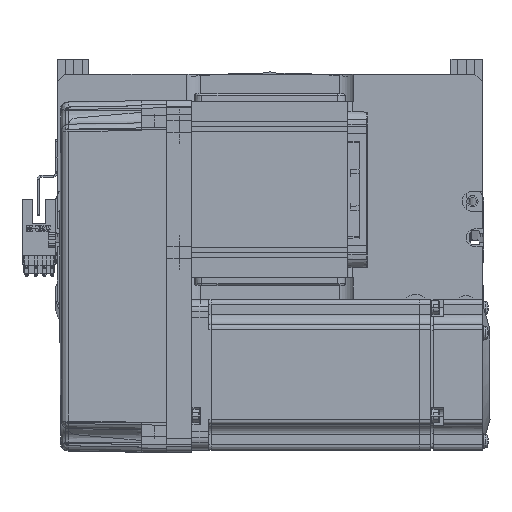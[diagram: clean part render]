
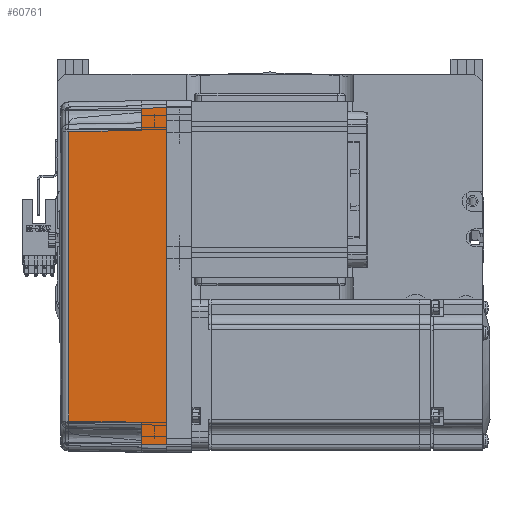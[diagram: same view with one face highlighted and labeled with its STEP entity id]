
A CAD part, top view. The second image highlights one B-rep face of the part: STEP entity #60761.
In plain terms, the highlighted planar face has unit normal (-0.018, 0, 1) as drawn and (0, -1, 0.017) by its records, which use the part's own axes.
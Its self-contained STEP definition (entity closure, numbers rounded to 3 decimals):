
#457 = CARTESIAN_POINT ( 'NONE',  ( 70., -35.825, 10. ) ) ;
#1081 = EDGE_CURVE ( 'NONE', #11502, #51731, #46467, .T. ) ;
#3785 = VECTOR ( 'NONE', #60072, 1000. ) ;
#4316 = DIRECTION ( 'NONE',  ( -0.017, 0.017, 1. ) ) ;
#4744 = DIRECTION ( 'NONE',  ( 0., -1., 0.017 ) ) ;
#5974 = VECTOR ( 'NONE', #30192, 1000. ) ;
#6986 = LINE ( 'NONE', #18964, #3785 ) ;
#7175 = VERTEX_POINT ( 'NONE', #53235 ) ;
#7871 = ORIENTED_EDGE ( 'NONE', *, *, #24442, .T. ) ;
#8962 = VERTEX_POINT ( 'NONE', #38263 ) ;
#9987 = PLANE ( 'NONE',  #53218 ) ;
#10396 = ORIENTED_EDGE ( 'NONE', *, *, #52747, .F. ) ;
#10640 = CARTESIAN_POINT ( 'NONE',  ( 57.495, -35.32, 38.985 ) ) ;
#11502 = VERTEX_POINT ( 'NONE', #57756 ) ;
#12160 = ORIENTED_EDGE ( 'NONE', *, *, #31608, .T. ) ;
#13069 = CARTESIAN_POINT ( 'NONE',  ( -67., -36., 0. ) ) ;
#14869 = CARTESIAN_POINT ( 'NONE',  ( -66.959, -35.958, 2.39 ) ) ;
#15133 = LINE ( 'NONE', #19412, #61682 ) ;
#16195 = VECTOR ( 'NONE', #41329, 1000. ) ;
#18204 = VERTEX_POINT ( 'NONE', #13069 ) ;
#18964 = CARTESIAN_POINT ( 'NONE',  ( 0., -36., 0. ) ) ;
#19394 = ORIENTED_EDGE ( 'NONE', *, *, #1081, .T. ) ;
#19412 = CARTESIAN_POINT ( 'NONE',  ( 67., -36., 0. ) ) ;
#19890 = LINE ( 'NONE', #40075, #5974 ) ;
#20148 = DIRECTION ( 'NONE',  ( 0.017, 0.017, 1. ) ) ;
#20532 = CARTESIAN_POINT ( 'NONE',  ( 57.495, -35.32, 38.985 ) ) ;
#24442 = EDGE_CURVE ( 'NONE', #7175, #8962, #19890, .T. ) ;
#24561 = LINE ( 'NONE', #457, #61321 ) ;
#26142 = EDGE_CURVE ( 'NONE', #29879, #33969, #15133, .T. ) ;
#26761 = EDGE_CURVE ( 'NONE', #51731, #50205, #46126, .T. ) ;
#26839 = CARTESIAN_POINT ( 'NONE',  ( -57.495, -35.32, 38.985 ) ) ;
#27364 = CARTESIAN_POINT ( 'NONE',  ( -57.495, -35.32, 38.985 ) ) ;
#29879 = VERTEX_POINT ( 'NONE', #46768 ) ;
#30192 = DIRECTION ( 'NONE',  ( -1., 0., 0. ) ) ;
#31608 = EDGE_CURVE ( 'NONE', #33969, #11502, #24561, .T. ) ;
#31953 = LINE ( 'NONE', #27364, #32740 ) ;
#32105 = CARTESIAN_POINT ( 'NONE',  ( -19.165, -35.316, 39.181 ) ) ;
#32650 = DIRECTION ( 'NONE',  ( -0.017, -0.017, -1. ) ) ;
#32740 = VECTOR ( 'NONE', #32650, 1000. ) ;
#33969 = VERTEX_POINT ( 'NONE', #55592 ) ;
#38263 = CARTESIAN_POINT ( 'NONE',  ( -66.826, -35.825, 10. ) ) ;
#38452 = ORIENTED_EDGE ( 'NONE', *, *, #45930, .F. ) ;
#40075 = CARTESIAN_POINT ( 'NONE',  ( 70., -35.825, 10. ) ) ;
#41329 = DIRECTION ( 'NONE',  ( -0.017, 0.017, 1. ) ) ;
#41381 = LINE ( 'NONE', #14869, #51204 ) ;
#45156 = CARTESIAN_POINT ( 'NONE',  ( -57.495, -35.32, 38.985 ) ) ;
#45930 = EDGE_CURVE ( 'NONE', #29879, #18204, #6986, .T. ) ;
#46126 = B_SPLINE_CURVE_WITH_KNOTS ( 'NONE', 3,
 ( #10640, #62718, #32105, #26839 ),
 .UNSPECIFIED., .F., .F.,
 ( 4, 4 ),
 ( 0., 1. ),
 .UNSPECIFIED. ) ;
#46467 = LINE ( 'NONE', #55245, #16195 ) ;
#46592 = CARTESIAN_POINT ( 'NONE',  ( 70., -36., 0. ) ) ;
#46768 = CARTESIAN_POINT ( 'NONE',  ( 67., -36., 0. ) ) ;
#48919 = DIRECTION ( 'NONE',  ( -1., 0., 0. ) ) ;
#50205 = VERTEX_POINT ( 'NONE', #45156 ) ;
#51204 = VECTOR ( 'NONE', #20148, 1000. ) ;
#51731 = VERTEX_POINT ( 'NONE', #20532 ) ;
#52747 = EDGE_CURVE ( 'NONE', #18204, #8962, #41381, .T. ) ;
#53218 = AXIS2_PLACEMENT_3D ( 'NONE', #46592, #4744, #67588 ) ;
#53235 = CARTESIAN_POINT ( 'NONE',  ( -58., -35.825, 10. ) ) ;
#55187 = EDGE_CURVE ( 'NONE', #50205, #7175, #31953, .T. ) ;
#55245 = CARTESIAN_POINT ( 'NONE',  ( 58., -35.825, 10. ) ) ;
#55592 = CARTESIAN_POINT ( 'NONE',  ( 66.826, -35.825, 10. ) ) ;
#56006 = EDGE_LOOP ( 'NONE', ( #58652, #12160, #19394, #67213, #67508, #7871, #10396, #38452 ) ) ;
#57756 = CARTESIAN_POINT ( 'NONE',  ( 58., -35.825, 10. ) ) ;
#58652 = ORIENTED_EDGE ( 'NONE', *, *, #26142, .T. ) ;
#60072 = DIRECTION ( 'NONE',  ( -1., 0., 0. ) ) ;
#60215 = FACE_OUTER_BOUND ( 'NONE', #56006, .T. ) ;
#60761 = ADVANCED_FACE ( 'NONE', ( #60215 ), #9987, .T. ) ;
#61321 = VECTOR ( 'NONE', #48919, 1000. ) ;
#61682 = VECTOR ( 'NONE', #4316, 1000. ) ;
#62718 = CARTESIAN_POINT ( 'NONE',  ( 19.165, -35.316, 39.181 ) ) ;
#67213 = ORIENTED_EDGE ( 'NONE', *, *, #26761, .T. ) ;
#67508 = ORIENTED_EDGE ( 'NONE', *, *, #55187, .T. ) ;
#67588 = DIRECTION ( 'NONE',  ( 0., -0.017, -1. ) ) ;
